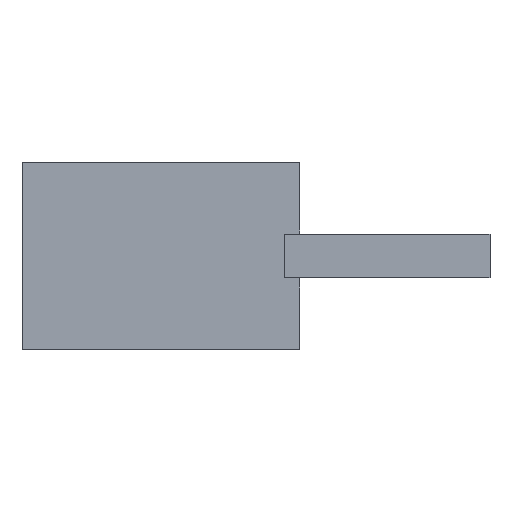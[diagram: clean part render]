
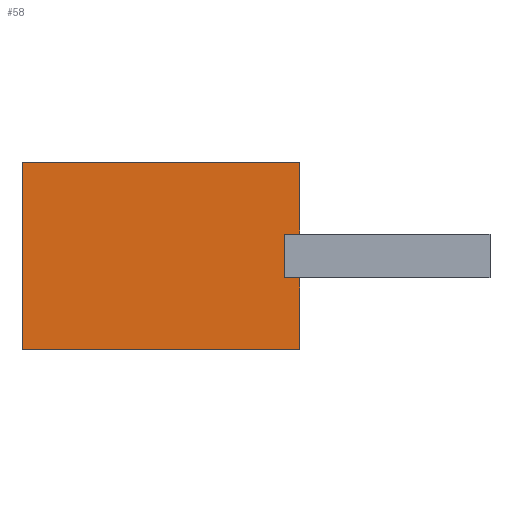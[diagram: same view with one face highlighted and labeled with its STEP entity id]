
A CAD part, top view. The second image highlights one B-rep face of the part: STEP entity #58.
In plain terms, the highlighted planar face has unit normal (0, 0, 1).
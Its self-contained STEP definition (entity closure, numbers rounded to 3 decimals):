
#58=ADVANCED_FACE('',(#166),#168,.T.);
#166=FACE_BOUND('',#167,.T.);
#167=EDGE_LOOP('',(#250,#251,#252,#253,#254,#255,#256,#257));
#168=PLANE('',#169);
#169=AXIS2_PLACEMENT_3D('',#170,#171,#172);
#170=CARTESIAN_POINT('',(0.,0.,1.));
#171=DIRECTION('',(0.,0.,1.));
#172=DIRECTION('',(-1.,0.,0.));
#250=ORIENTED_EDGE('',*,*,#306,.F.);
#251=ORIENTED_EDGE('',*,*,#307,.F.);
#252=ORIENTED_EDGE('',*,*,#308,.F.);
#253=ORIENTED_EDGE('',*,*,#309,.T.);
#254=ORIENTED_EDGE('',*,*,#310,.T.);
#255=ORIENTED_EDGE('',*,*,#311,.T.);
#256=ORIENTED_EDGE('',*,*,#312,.T.);
#257=ORIENTED_EDGE('',*,*,#313,.T.);
#306=EDGE_CURVE('',#334,#335,#336,.T.);
#307=EDGE_CURVE('',#337,#334,#338,.T.);
#308=EDGE_CURVE('',#339,#337,#340,.T.);
#309=EDGE_CURVE('',#339,#341,#342,.T.);
#310=EDGE_CURVE('',#341,#343,#344,.T.);
#311=EDGE_CURVE('',#343,#345,#346,.T.);
#312=EDGE_CURVE('',#345,#347,#348,.T.);
#313=EDGE_CURVE('',#347,#335,#349,.T.);
#334=VERTEX_POINT('',#380);
#335=VERTEX_POINT('',#381);
#336=LINE('',#382,#383);
#337=VERTEX_POINT('',#385);
#338=LINE('',#386,#387);
#339=VERTEX_POINT('',#389);
#340=LINE('',#390,#391);
#341=VERTEX_POINT('',#393);
#342=LINE('',#394,#395);
#343=VERTEX_POINT('',#397);
#344=LINE('',#398,#399);
#345=VERTEX_POINT('',#401);
#346=LINE('',#402,#403);
#347=VERTEX_POINT('',#405);
#348=LINE('',#406,#407);
#349=LINE('',#409,#410);
#380=CARTESIAN_POINT('',(4.235,-0.75,1.));
#381=CARTESIAN_POINT('',(4.75,-0.75,1.));
#382=CARTESIAN_POINT('',(4.235,-0.75,1.));
#383=VECTOR('',#384,1.);
#384=DIRECTION('',(1.,0.,0.));
#385=CARTESIAN_POINT('',(4.235,0.75,1.));
#386=CARTESIAN_POINT('',(4.235,0.75,1.));
#387=VECTOR('',#388,1.);
#388=DIRECTION('',(0.,-1.,0.));
#389=CARTESIAN_POINT('',(4.75,0.75,1.));
#390=CARTESIAN_POINT('',(4.75,0.75,1.));
#391=VECTOR('',#392,1.);
#392=DIRECTION('',(-1.,0.,0.));
#393=CARTESIAN_POINT('',(4.75,3.2,1.));
#394=CARTESIAN_POINT('',(4.75,0.75,1.));
#395=VECTOR('',#396,1.);
#396=DIRECTION('',(0.,1.,0.));
#397=CARTESIAN_POINT('',(-4.75,3.2,1.));
#398=CARTESIAN_POINT('',(4.75,3.2,1.));
#399=VECTOR('',#400,1.);
#400=DIRECTION('',(-1.,0.,0.));
#401=CARTESIAN_POINT('',(-4.75,-3.2,1.));
#402=CARTESIAN_POINT('',(-4.75,3.2,1.));
#403=VECTOR('',#404,1.);
#404=DIRECTION('',(0.,-1.,0.));
#405=CARTESIAN_POINT('',(4.75,-3.2,1.));
#406=CARTESIAN_POINT('',(-4.75,-3.2,1.));
#407=VECTOR('',#408,1.);
#408=DIRECTION('',(1.,0.,0.));
#409=CARTESIAN_POINT('',(4.75,-3.2,1.));
#410=VECTOR('',#411,1.);
#411=DIRECTION('',(0.,1.,0.));
